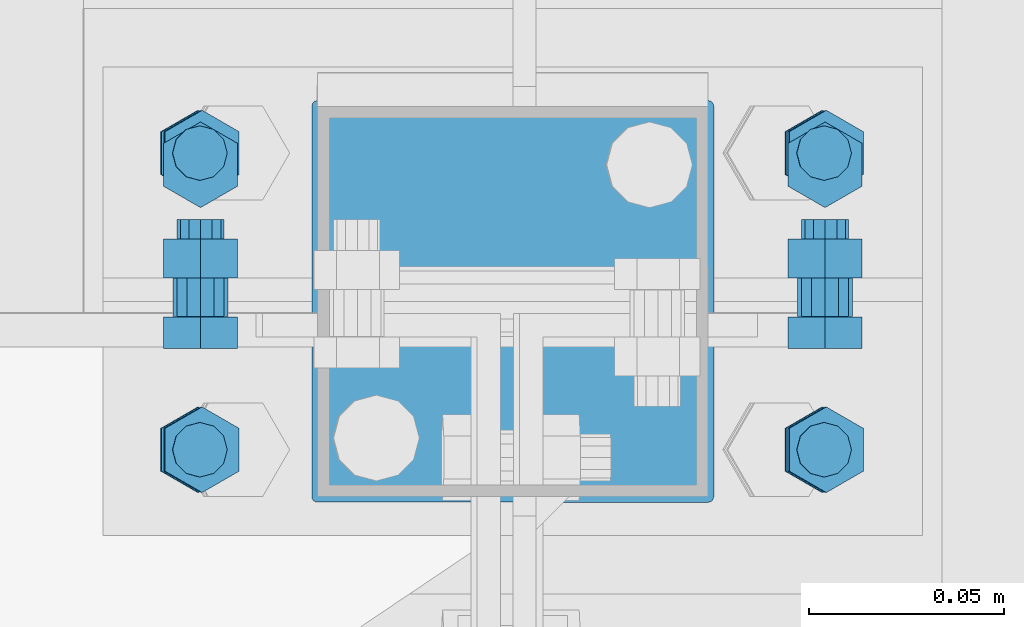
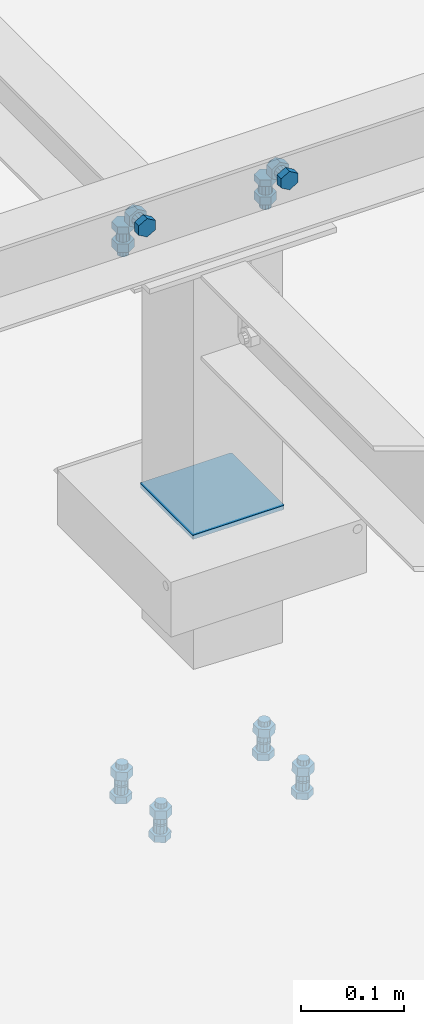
# One storey, part 317 of 3134: 5 mechanical fasteners, 4 elements without a shape of their own.
"""IFC2X3 building model written with IfcOpenShell, lengths in millimetres."""

from ifc_helpers import new_model, si_unit, frame, origin_with_axes, place, context, subcontext, project, spatial, faceted_brep, source, transform, mapped, material, type_object, element, aggregate, save


model = new_model("IFC2X3")

# Units and contexts
model_context = context("Model", 3, precision=1e-05, world=origin_with_axes())
body_context = subcontext(model_context, "Body", "Model", "MODEL_VIEW")
ifc_project = project(units=[si_unit("LENGTHUNIT", "METRE", prefix="MILLI"), si_unit("AREAUNIT", "SQUARE_METRE"), si_unit("VOLUMEUNIT", "CUBIC_METRE"), si_unit("MASSUNIT", "GRAM", prefix="KILO"), si_unit("TIMEUNIT", "SECOND"), si_unit("PLANEANGLEUNIT", "RADIAN"), si_unit("SOLIDANGLEUNIT", "STERADIAN"), si_unit("THERMODYNAMICTEMPERATUREUNIT", "DEGREE_CELSIUS"), si_unit("LUMINOUSINTENSITYUNIT", "LUMEN")], contexts=[model_context])

# Site, building, storey
site_placement = place(None, origin_with_axes())
site = spatial("IfcSite", under=ifc_project, at=site_placement, CompositionType="ELEMENT")
building_placement = place(site_placement, origin_with_axes())
building = spatial("IfcBuilding", under=site, at=building_placement, Name="Undefined", CompositionType="ELEMENT")
storey_placement = place(building_placement, origin_with_axes())
storey = spatial("IfcBuildingStorey", under=building, at=storey_placement, Name="Undefined", CompositionType="ELEMENT", Elevation=0.0)

# Assembly, mechanical fastener
assembly_1_placement = place(storey_placement, origin_with_axes())
assembly_1 = element("IfcElementAssembly", 1, at=assembly_1_placement, inside=storey, AssemblyPlace="NOTDEFINED", PredefinedType="RIGID_FRAME")
ifc_material_1 = material(Name="8.8")
mechanical_fastener_type = type_object("IfcMechanicalFastenerType", Name="Bolt assembly")
shared_shape_1 = source(origin_with_axes(), body_context, "Body", "Brep", [
    faceted_brep([(10.9696551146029, -14.0, 0.0), (5.48482755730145, -14.0, 9.5), (-5.48482755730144, -14.0, 9.5), (-10.9696551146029, -14.0, 1.34339530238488e-15), (-5.48482755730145, -14.0, -9.5), (5.48482755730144, -14.0, -9.50000000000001), (5.48482755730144, -6.0, -9.50000000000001), (-5.48482755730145, -6.0, -9.5), (-10.9696551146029, -6.0, 1.34339530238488e-15), (-5.48482755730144, -6.0, 9.5), (5.48482755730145, -6.0, 9.5), (10.9696551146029, -6.0, 0.0), (6.0, -6.0, 0.0), (5.19615242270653, -6.0, 3.00000000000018), (2.99999999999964, -6.0, 5.19615242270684), (-6.21801588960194e-13, -6.0, 6.0), (-3.00000000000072, -6.0, 5.19615242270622), (-5.19615242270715, -6.0, 2.9999999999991), (-6.0, -6.0, -1.24360317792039e-12), (-5.19615242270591, -6.0, -3.00000000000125), (-2.99999999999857, -6.0, -5.19615242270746), (1.85874342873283e-12, -6.0, -6.0), (3.00000000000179, -6.0, -5.1961524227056), (5.19615242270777, -6.0, -2.99999999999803), (5.19615242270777, 24.0, -2.99999999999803), (3.00000000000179, 24.0, -5.1961524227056), (1.85874342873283e-12, 24.0, -6.0), (-2.99999999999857, 24.0, -5.19615242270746), (-5.19615242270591, 24.0, -3.00000000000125), (-6.0, 24.0, -1.24360317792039e-12), (-5.19615242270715, 24.0, 2.9999999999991), (-3.00000000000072, 24.0, 5.19615242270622), (-6.21801588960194e-13, 24.0, 6.0), (2.99999999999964, 24.0, 5.19615242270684), (5.19615242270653, 24.0, 3.00000000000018), (6.0, 24.0, 0.0), (10.9696551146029, 6.00000000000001, 0.0), (5.48482755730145, 6.00000000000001, 9.5), (-5.48482755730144, 6.00000000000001, 9.5), (-10.9696551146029, 6.00000000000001, 1.34339530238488e-15), (-5.48482755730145, 6.00000000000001, -9.5), (5.48482755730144, 6.00000000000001, -9.50000000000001), (5.48482755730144, 16.0, -9.50000000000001), (-5.48482755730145, 16.0, -9.5), (-10.9696551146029, 16.0, 1.34339530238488e-15), (-5.48482755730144, 16.0, 9.5), (5.48482755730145, 16.0, 9.5), (10.9696551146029, 16.0, 0.0)], [[[0, 1, 2, 3, 4, 5]], [[6, 7, 8, 9, 10, 11]], [[0, 11, 10, 1]], [[1, 10, 9, 2]], [[2, 9, 8, 3]], [[3, 8, 7, 4]], [[4, 7, 6, 5]], [[5, 6, 11, 0]], [[12, 13, 14, 15, 16, 17, 18, 19, 20, 21, 22, 23]], [[24, 25, 26, 27, 28, 29, 30, 31, 32, 33, 34, 35]], [[12, 35, 34, 13]], [[13, 34, 33, 14]], [[14, 33, 32, 15]], [[15, 32, 31, 16]], [[16, 31, 30, 17]], [[17, 30, 29, 18]], [[18, 29, 28, 19]], [[19, 28, 27, 20]], [[20, 27, 26, 21]], [[21, 26, 25, 22]], [[22, 25, 24, 23]], [[23, 24, 35, 12]], [[36, 37, 38, 39, 40, 41]], [[42, 43, 44, 45, 46, 47]], [[36, 47, 46, 37]], [[37, 46, 45, 38]], [[38, 45, 44, 39]], [[39, 44, 43, 40]], [[40, 43, 42, 41]], [[41, 42, 47, 36]]]),
    faceted_brep([(7.0, -0.1, 0.0), (6.06217782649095, -0.1, 3.50000000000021), (3.49999999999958, -0.1, 6.06217782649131), (-7.25435187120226e-13, -0.1, 7.0), (-3.50000000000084, -0.1, 6.06217782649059), (-6.06217782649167, -0.1, 3.49999999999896), (-7.0, -0.1, -1.45087037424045e-12), (-6.06217782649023, -0.1, -3.50000000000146), (-3.49999999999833, -0.1, -6.06217782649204), (2.1685340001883e-12, -0.1, -7.0), (3.50000000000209, -0.1, -6.06217782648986), (6.0621778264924, -0.1, -3.4999999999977), (6.0621778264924, 6.00000000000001, -3.4999999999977), (3.50000000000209, 6.00000000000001, -6.06217782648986), (2.1685340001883e-12, 6.00000000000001, -7.0), (-3.49999999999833, 6.00000000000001, -6.06217782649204), (-6.06217782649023, 6.00000000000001, -3.50000000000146), (-7.0, 6.00000000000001, -1.45087037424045e-12), (-6.06217782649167, 6.00000000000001, 3.49999999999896), (-3.50000000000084, 6.00000000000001, 6.06217782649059), (-7.25435187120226e-13, 6.00000000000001, 7.0), (3.49999999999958, 6.00000000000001, 6.06217782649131), (6.06217782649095, 6.00000000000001, 3.50000000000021), (7.0, 6.00000000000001, 0.0), (7.0, -5.9, 0.0), (6.06217782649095, -5.9, 3.50000000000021), (3.49999999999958, -5.9, 6.06217782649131), (-7.25435187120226e-13, -5.9, 7.0), (-3.50000000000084, -5.9, 6.06217782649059), (-6.06217782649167, -5.9, 3.49999999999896), (-7.0, -5.9, -1.45087037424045e-12), (-6.06217782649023, -5.9, -3.50000000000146), (-3.49999999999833, -5.9, -6.06217782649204), (2.1685340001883e-12, -5.9, -7.0), (3.50000000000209, -5.9, -6.06217782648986), (6.0621778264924, -5.9, -3.4999999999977), (6.0621778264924, 0.0999999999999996, -3.4999999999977), (3.50000000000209, 0.0999999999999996, -6.06217782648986), (2.1685340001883e-12, 0.0999999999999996, -7.0), (-3.49999999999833, 0.0999999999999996, -6.06217782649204), (-6.06217782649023, 0.0999999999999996, -3.50000000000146), (-7.0, 0.0999999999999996, -1.45087037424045e-12), (-6.06217782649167, 0.0999999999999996, 3.49999999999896), (-3.50000000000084, 0.0999999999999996, 6.06217782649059), (-7.25435187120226e-13, 0.0999999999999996, 7.0), (3.49999999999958, 0.0999999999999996, 6.06217782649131), (6.06217782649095, 0.0999999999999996, 3.50000000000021), (7.0, 0.0999999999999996, 0.0)], [[[0, 1, 2, 3, 4, 5, 6, 7, 8, 9, 10, 11]], [[12, 13, 14, 15, 16, 17, 18, 19, 20, 21, 22, 23]], [[0, 23, 22, 1]], [[1, 22, 21, 2]], [[2, 21, 20, 3]], [[3, 20, 19, 4]], [[4, 19, 18, 5]], [[5, 18, 17, 6]], [[6, 17, 16, 7]], [[7, 16, 15, 8]], [[8, 15, 14, 9]], [[9, 14, 13, 10]], [[10, 13, 12, 11]], [[11, 12, 23, 0]], [[24, 25, 26, 27, 28, 29, 30, 31, 32, 33, 34, 35]], [[36, 37, 38, 39, 40, 41, 42, 43, 44, 45, 46, 47]], [[24, 47, 46, 25]], [[25, 46, 45, 26]], [[26, 45, 44, 27]], [[27, 44, 43, 28]], [[28, 43, 42, 29]], [[29, 42, 41, 30]], [[30, 41, 40, 31]], [[31, 40, 39, 32]], [[32, 39, 38, 33]], [[33, 38, 37, 34]], [[34, 37, 36, 35]], [[35, 36, 47, 24]]]),
])
mechanical_fastener_1_placement = place(assembly_1_placement, frame((75550.0, 2585.0, 5850.0), z_axis=(1.0, 0.0, 0.0), x_axis=(0.0, -1.0, 0.0)))
mechanical_fastener_1 = element("IfcMechanicalFastener", 2, at=mechanical_fastener_1_placement, type_object=mechanical_fastener_type, material=ifc_material_1, Name="Bolt assembly", NominalDiameter=12.0, NominalLength=30.0, context=body_context, shape_type="MappedRepresentation", body=[
    mapped(shared_shape_1, transform((0.0, -5.32963895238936e-10, -79.9999999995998))),
    mapped(shared_shape_1, transform((0.0, 5.3114490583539e-10, 79.9999999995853))),
])

assembly_2_placement = place(storey_placement, origin_with_axes())
assembly_2 = element("IfcElementAssembly", 3, at=assembly_2_placement, inside=storey, AssemblyPlace="NOTDEFINED", PredefinedType="RIGID_FRAME")
shared_shape_2 = source(origin_with_axes(), body_context, "Body", "Brep", [
    faceted_brep([(7.0, 13.0000253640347, 0.0), (6.06217782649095, 13.0000253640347, 3.50000000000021), (3.49999999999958, 13.0000253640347, 6.06217782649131), (-7.25435187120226e-13, 13.0000253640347, 7.0), (-3.50000000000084, 13.0000253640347, 6.06217782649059), (-6.06217782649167, 13.0000253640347, 3.49999999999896), (-7.0, 13.0000253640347, -1.45087037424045e-12), (-6.06217782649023, 13.0000253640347, -3.50000000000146), (-3.49999999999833, 13.0000253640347, -6.06217782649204), (2.1685340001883e-12, 13.0000253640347, -7.0), (3.50000000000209, 13.0000253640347, -6.06217782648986), (6.0621778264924, 13.0000253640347, -3.4999999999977), (6.0621778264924, 15.0999999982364, -3.4999999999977), (3.50000000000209, 15.0999999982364, -6.06217782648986), (2.1685340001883e-12, 15.0999999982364, -7.0), (-3.49999999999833, 15.0999999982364, -6.06217782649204), (-6.06217782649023, 15.0999999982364, -3.50000000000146), (-7.0, 15.0999999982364, -1.45087037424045e-12), (-6.06217782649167, 15.0999999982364, 3.49999999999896), (-3.50000000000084, 15.0999999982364, 6.06217782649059), (-7.25435187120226e-13, 15.0999999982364, 7.0), (3.49999999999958, 15.0999999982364, 6.06217782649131), (6.06217782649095, 15.0999999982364, 3.50000000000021), (7.0, 15.0999999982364, 0.0)], [[[0, 1, 2, 3, 4, 5, 6, 7, 8, 9, 10, 11]], [[12, 13, 14, 15, 16, 17, 18, 19, 20, 21, 22, 23]], [[0, 23, 22, 1]], [[1, 22, 21, 2]], [[2, 21, 20, 3]], [[3, 20, 19, 4]], [[4, 19, 18, 5]], [[5, 18, 17, 6]], [[6, 17, 16, 7]], [[7, 16, 15, 8]], [[8, 15, 14, 9]], [[9, 14, 13, 10]], [[10, 13, 12, 11]], [[11, 12, 23, 0]]]),
])
mechanical_fastener_2_placement = place(assembly_2_placement, frame((75549.3451187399, 2588.0, 5179.0072055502), z_axis=(-0.99951962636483, 0.0, 0.0309922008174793), x_axis=(0.0, -1.0, 0.0)))
mechanical_fastener_2 = element("IfcMechanicalFastener", 4, at=mechanical_fastener_2_placement, type_object=mechanical_fastener_type, material=ifc_material_1, Name="Bolt assembly", NominalDiameter=12.0, NominalLength=2.0, context=body_context, shape_type="MappedRepresentation", body=[
    mapped(shared_shape_2, transform((0.0, -5.32963895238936e-10, -79.9999999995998))),
    mapped(shared_shape_2, transform((76.0, -5.32963895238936e-10, -79.9999999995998))),
    mapped(shared_shape_2, transform((0.0, 5.3114490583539e-10, 79.9999999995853))),
    mapped(shared_shape_2, transform((76.0, 5.3114490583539e-10, 79.9999999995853))),
])
aggregate(assembly_2, [mechanical_fastener_2])

assembly_3_placement = place(storey_placement, origin_with_axes())
assembly_3 = element("IfcElementAssembly", 5, at=assembly_3_placement, inside=storey, AssemblyPlace="NOTDEFINED", PredefinedType="RIGID_FRAME")
ifc_material_2 = material(Name="6.8")
shared_shape_3 = source(origin_with_axes(), body_context, "Body", "Brep", [
    faceted_brep([(51.5, 1.36424205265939e-12, 50.0), (51.3858192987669, 1.36424205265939e-12, 50.5740251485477), (51.0606601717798, 1.36424205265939e-12, 51.0606601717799), (50.5740251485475, 1.36424205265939e-12, 51.385819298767), (-50.0000000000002, 1.36424205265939e-12, 51.5), (-50.7500000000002, 1.36424205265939e-12, 51.2990381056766), (-51.2990381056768, 1.36424205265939e-12, 50.7499999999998), (-51.5, 1.36424205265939e-12, 49.9999999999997), (-51.5, 1.36424205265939e-12, -50.0000000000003), (-51.2990381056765, 1.36424205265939e-12, -50.7500000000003), (-50.7499999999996, 1.36424205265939e-12, -51.2990381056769), (-49.9999999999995, 1.36424205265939e-12, -51.5), (50.0000000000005, 1.36424205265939e-12, -51.5), (50.7500000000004, 1.36424205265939e-12, -51.2990381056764), (51.2990381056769, 1.36424205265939e-12, -50.7499999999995), (51.5, 1.36424205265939e-12, -49.9999999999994), (51.5, 5.10000000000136, -49.9999999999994), (51.2990381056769, 5.10000000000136, -50.7499999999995), (50.7500000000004, 5.10000000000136, -51.2990381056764), (50.0000000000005, 5.10000000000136, -51.5), (-49.9999999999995, 5.10000000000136, -51.5), (-50.7499999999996, 5.10000000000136, -51.2990381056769), (-51.2990381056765, 5.10000000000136, -50.7500000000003), (-51.5, 5.10000000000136, -50.0000000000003), (-51.5, 5.10000000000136, 49.9999999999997), (-51.2990381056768, 5.10000000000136, 50.7499999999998), (-50.7500000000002, 5.10000000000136, 51.2990381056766), (-50.0000000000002, 5.10000000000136, 51.5), (50.5740251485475, 5.10000000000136, 51.385819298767), (51.0606601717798, 5.10000000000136, 51.0606601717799), (51.3858192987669, 5.10000000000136, 50.5740251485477), (51.5, 5.10000000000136, 50.0)], [[[0, 1, 2, 3, 4, 5, 6, 7, 8, 9, 10, 11, 12, 13, 14, 15]], [[16, 17, 18, 19, 20, 21, 22, 23, 24, 25, 26, 27, 28, 29, 30, 31]], [[0, 31, 30, 1]], [[1, 30, 29, 2]], [[2, 29, 28, 3]], [[3, 28, 27, 4]], [[4, 27, 26, 5]], [[5, 26, 25, 6]], [[6, 25, 24, 7]], [[7, 24, 23, 8]], [[8, 23, 22, 9]], [[9, 22, 21, 10]], [[10, 21, 20, 11]], [[11, 20, 19, 12]], [[12, 19, 18, 13]], [[13, 18, 17, 14]], [[14, 17, 16, 15]], [[15, 16, 31, 0]]]),
])
mechanical_fastener_3_placement = place(assembly_3_placement, frame((75550.0, 2550.0, 5533.71), z_axis=(0.0, -1.0, 0.0), x_axis=(-1.0, 0.0, 0.0)))
mechanical_fastener_3 = element("IfcMechanicalFastener", 6, at=mechanical_fastener_3_placement, type_object=mechanical_fastener_type, material=ifc_material_2, Name="Bolt assembly", NominalDiameter=10.0, NominalLength=5.0, context=body_context, shape_type="MappedRepresentation", body=[
    mapped(shared_shape_3, transform((0.0, 0.0, 0.0))),
])
aggregate(assembly_3, [mechanical_fastener_3])

# Mechanical fastener
shared_shape_4 = source(origin_with_axes(), body_context, "Body", "Brep", [
    faceted_brep([(10.9696551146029, -12.0, 0.0), (5.48482755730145, -12.0, 9.5), (-5.48482755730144, -12.0, 9.5), (-10.9696551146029, -12.0, 1.34339530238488e-15), (-5.48482755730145, -12.0, -9.5), (5.48482755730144, -12.0, -9.50000000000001), (5.48482755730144, -4.0, -9.50000000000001), (-5.48482755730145, -4.0, -9.5), (-10.9696551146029, -4.0, 1.34339530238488e-15), (-5.48482755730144, -4.0, 9.5), (5.48482755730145, -4.0, 9.5), (10.9696551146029, -4.0, 0.0), (6.0, -4.0, 0.0), (5.19615242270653, -4.0, 3.00000000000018), (2.99999999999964, -4.0, 5.19615242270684), (-6.21801588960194e-13, -4.0, 6.0), (-3.00000000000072, -4.0, 5.19615242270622), (-5.19615242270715, -4.0, 2.9999999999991), (-6.0, -4.0, -1.24360317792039e-12), (-5.19615242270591, -4.0, -3.00000000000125), (-2.99999999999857, -4.0, -5.19615242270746), (1.85874342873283e-12, -4.0, -6.0), (3.00000000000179, -4.0, -5.1961524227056), (5.19615242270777, -4.0, -2.99999999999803), (5.19615242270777, 21.0, -2.99999999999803), (3.00000000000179, 21.0, -5.1961524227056), (1.85874342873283e-12, 21.0, -6.0), (-2.99999999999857, 21.0, -5.19615242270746), (-5.19615242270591, 21.0, -3.00000000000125), (-6.0, 21.0, -1.24360317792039e-12), (-5.19615242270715, 21.0, 2.9999999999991), (-3.00000000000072, 21.0, 5.19615242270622), (-6.21801588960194e-13, 21.0, 6.0), (2.99999999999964, 21.0, 5.19615242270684), (5.19615242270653, 21.0, 3.00000000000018), (6.0, 21.0, 0.0), (10.9696551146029, 6.00000000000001, 0.0), (5.48482755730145, 6.00000000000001, 9.5), (-5.48482755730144, 6.00000000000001, 9.5), (-10.9696551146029, 6.00000000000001, 1.34339530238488e-15), (-5.48482755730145, 6.00000000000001, -9.5), (5.48482755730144, 6.00000000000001, -9.50000000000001), (5.48482755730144, 16.0, -9.50000000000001), (-5.48482755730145, 16.0, -9.5), (-10.9696551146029, 16.0, 1.34339530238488e-15), (-5.48482755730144, 16.0, 9.5), (5.48482755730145, 16.0, 9.5), (10.9696551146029, 16.0, 0.0)], [[[0, 1, 2, 3, 4, 5]], [[6, 7, 8, 9, 10, 11]], [[0, 11, 10, 1]], [[1, 10, 9, 2]], [[2, 9, 8, 3]], [[3, 8, 7, 4]], [[4, 7, 6, 5]], [[5, 6, 11, 0]], [[12, 13, 14, 15, 16, 17, 18, 19, 20, 21, 22, 23]], [[24, 25, 26, 27, 28, 29, 30, 31, 32, 33, 34, 35]], [[12, 35, 34, 13]], [[13, 34, 33, 14]], [[14, 33, 32, 15]], [[15, 32, 31, 16]], [[16, 31, 30, 17]], [[17, 30, 29, 18]], [[18, 29, 28, 19]], [[19, 28, 27, 20]], [[20, 27, 26, 21]], [[21, 26, 25, 22]], [[22, 25, 24, 23]], [[23, 24, 35, 12]], [[36, 37, 38, 39, 40, 41]], [[42, 43, 44, 45, 46, 47]], [[36, 47, 46, 37]], [[37, 46, 45, 38]], [[38, 45, 44, 39]], [[39, 44, 43, 40]], [[40, 43, 42, 41]], [[41, 42, 47, 36]]]),
    faceted_brep([(7.0, -3.9, 0.0), (6.06217782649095, -3.9, 3.50000000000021), (3.49999999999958, -3.9, 6.06217782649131), (-7.25435187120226e-13, -3.9, 7.0), (-3.50000000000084, -3.9, 6.06217782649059), (-6.06217782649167, -3.9, 3.49999999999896), (-7.0, -3.9, -1.45087037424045e-12), (-6.06217782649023, -3.9, -3.50000000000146), (-3.49999999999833, -3.9, -6.06217782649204), (2.1685340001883e-12, -3.9, -7.0), (3.50000000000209, -3.9, -6.06217782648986), (6.0621778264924, -3.9, -3.4999999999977), (6.0621778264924, 0.0999999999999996, -3.4999999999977), (3.50000000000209, 0.0999999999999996, -6.06217782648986), (2.1685340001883e-12, 0.0999999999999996, -7.0), (-3.49999999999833, 0.0999999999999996, -6.06217782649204), (-6.06217782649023, 0.0999999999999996, -3.50000000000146), (-7.0, 0.0999999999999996, -1.45087037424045e-12), (-6.06217782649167, 0.0999999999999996, 3.49999999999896), (-3.50000000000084, 0.0999999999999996, 6.06217782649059), (-7.25435187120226e-13, 0.0999999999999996, 7.0), (3.49999999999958, 0.0999999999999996, 6.06217782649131), (6.06217782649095, 0.0999999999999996, 3.50000000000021), (7.0, 0.0999999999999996, 0.0), (7.0, -0.1, 0.0), (6.06217782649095, -0.1, 3.50000000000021), (3.49999999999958, -0.1, 6.06217782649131), (-7.25435187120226e-13, -0.1, 7.0), (-3.50000000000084, -0.1, 6.06217782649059), (-6.06217782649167, -0.1, 3.49999999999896), (-7.0, -0.1, -1.45087037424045e-12), (-6.06217782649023, -0.1, -3.50000000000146), (-3.49999999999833, -0.1, -6.06217782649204), (2.1685340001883e-12, -0.1, -7.0), (3.50000000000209, -0.1, -6.06217782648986), (6.0621778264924, -0.1, -3.4999999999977), (6.0621778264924, 6.00000000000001, -3.4999999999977), (3.50000000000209, 6.00000000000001, -6.06217782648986), (2.1685340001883e-12, 6.00000000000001, -7.0), (-3.49999999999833, 6.00000000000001, -6.06217782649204), (-6.06217782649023, 6.00000000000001, -3.50000000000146), (-7.0, 6.00000000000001, -1.45087037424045e-12), (-6.06217782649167, 6.00000000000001, 3.49999999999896), (-3.50000000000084, 6.00000000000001, 6.06217782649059), (-7.25435187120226e-13, 6.00000000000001, 7.0), (3.49999999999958, 6.00000000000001, 6.06217782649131), (6.06217782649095, 6.00000000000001, 3.50000000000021), (7.0, 6.00000000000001, 0.0)], [[[0, 1, 2, 3, 4, 5, 6, 7, 8, 9, 10, 11]], [[12, 13, 14, 15, 16, 17, 18, 19, 20, 21, 22, 23]], [[0, 23, 22, 1]], [[1, 22, 21, 2]], [[2, 21, 20, 3]], [[3, 20, 19, 4]], [[4, 19, 18, 5]], [[5, 18, 17, 6]], [[6, 17, 16, 7]], [[7, 16, 15, 8]], [[8, 15, 14, 9]], [[9, 14, 13, 10]], [[10, 13, 12, 11]], [[11, 12, 23, 0]], [[24, 25, 26, 27, 28, 29, 30, 31, 32, 33, 34, 35]], [[36, 37, 38, 39, 40, 41, 42, 43, 44, 45, 46, 47]], [[24, 47, 46, 25]], [[25, 46, 45, 26]], [[26, 45, 44, 27]], [[27, 44, 43, 28]], [[28, 43, 42, 29]], [[29, 42, 41, 30]], [[30, 41, 40, 31]], [[31, 40, 39, 32]], [[32, 39, 38, 33]], [[33, 38, 37, 34]], [[34, 37, 36, 35]], [[35, 36, 47, 24]]]),
])
mechanical_fastener_4_placement = place(assembly_1_placement, frame((75550.0, 2550.0, 5885.0), z_axis=(1.0, 0.0, 0.0), x_axis=(0.0, 0.0, -1.0)))
mechanical_fastener_4 = element("IfcMechanicalFastener", 7, at=mechanical_fastener_4_placement, type_object=mechanical_fastener_type, material=ifc_material_1, Name="Bolt assembly", NominalDiameter=12.0, NominalLength=25.0, context=body_context, shape_type="MappedRepresentation", body=[
    mapped(shared_shape_4, transform((0.0, -5.32963895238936e-10, -79.9999999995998))),
    mapped(shared_shape_4, transform((0.0, 5.3114490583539e-10, 79.9999999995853))),
])

aggregate(assembly_1, [mechanical_fastener_4, mechanical_fastener_1])

# Assembly, mechanical fastener
assembly_4_placement = place(storey_placement, origin_with_axes())
assembly_4 = element("IfcElementAssembly", 8, at=assembly_4_placement, inside=storey, Name="300", AssemblyPlace="NOTDEFINED", PredefinedType="RIGID_FRAME")
shared_shape_5 = source(origin_with_axes(), body_context, "Body", "Brep", [
    faceted_brep([(10.9696551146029, -10.1954959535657, 0.0), (5.48482755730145, -10.1954959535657, 9.5), (-5.48482755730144, -10.1954959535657, 9.5), (-10.9696551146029, -10.1954959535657, 1.34339530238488e-15), (-5.48482755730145, -10.1954959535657, -9.5), (5.48482755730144, -10.1954959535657, -9.50000000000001), (5.48482755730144, -2.19549595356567, -9.50000000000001), (-5.48482755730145, -2.19549595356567, -9.5), (-10.9696551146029, -2.19549595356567, 1.34339530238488e-15), (-5.48482755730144, -2.19549595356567, 9.5), (5.48482755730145, -2.19549595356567, 9.5), (10.9696551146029, -2.19549595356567, 0.0), (6.0, -2.19549595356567, 0.0), (5.19615242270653, -2.19549595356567, 3.00000000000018), (2.99999999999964, -2.19549595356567, 5.19615242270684), (-6.21801588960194e-13, -2.19549595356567, 6.0), (-3.00000000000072, -2.19549595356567, 5.19615242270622), (-5.19615242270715, -2.19549595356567, 2.9999999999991), (-6.0, -2.19549595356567, -1.24360317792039e-12), (-5.19615242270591, -2.19549595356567, -3.00000000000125), (-2.99999999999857, -2.19549595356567, -5.19615242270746), (1.85874342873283e-12, -2.19549595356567, -6.0), (3.00000000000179, -2.19549595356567, -5.1961524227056), (5.19615242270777, -2.19549595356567, -2.99999999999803), (5.19615242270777, 32.8045040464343, -2.99999999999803), (3.00000000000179, 32.8045040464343, -5.1961524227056), (1.85874342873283e-12, 32.8045040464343, -6.0), (-2.99999999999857, 32.8045040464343, -5.19615242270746), (-5.19615242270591, 32.8045040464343, -3.00000000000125), (-6.0, 32.8045040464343, -1.24360317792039e-12), (-5.19615242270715, 32.8045040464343, 2.9999999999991), (-3.00000000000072, 32.8045040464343, 5.19615242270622), (-6.21801588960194e-13, 32.8045040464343, 6.0), (2.99999999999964, 32.8045040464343, 5.19615242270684), (5.19615242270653, 32.8045040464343, 3.00000000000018), (6.0, 32.8045040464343, 0.0), (10.9696551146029, 17.0008987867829, 0.0), (5.48482755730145, 17.0008987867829, 9.5), (-5.48482755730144, 17.0008987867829, 9.5), (-10.9696551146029, 17.0008987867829, 1.34339530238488e-15), (-5.48482755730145, 17.0008987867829, -9.5), (5.48482755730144, 17.0008987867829, -9.50000000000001), (5.48482755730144, 27.0008987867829, -9.50000000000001), (-5.48482755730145, 27.0008987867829, -9.5), (-10.9696551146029, 27.0008987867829, 1.34339530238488e-15), (-5.48482755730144, 27.0008987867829, 9.5), (5.48482755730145, 27.0008987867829, 9.5), (10.9696551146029, 27.0008987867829, 0.0)], [[[0, 1, 2, 3, 4, 5]], [[6, 7, 8, 9, 10, 11]], [[0, 11, 10, 1]], [[1, 10, 9, 2]], [[2, 9, 8, 3]], [[3, 8, 7, 4]], [[4, 7, 6, 5]], [[5, 6, 11, 0]], [[12, 13, 14, 15, 16, 17, 18, 19, 20, 21, 22, 23]], [[24, 25, 26, 27, 28, 29, 30, 31, 32, 33, 34, 35]], [[12, 35, 34, 13]], [[13, 34, 33, 14]], [[14, 33, 32, 15]], [[15, 32, 31, 16]], [[16, 31, 30, 17]], [[17, 30, 29, 18]], [[18, 29, 28, 19]], [[19, 28, 27, 20]], [[20, 27, 26, 21]], [[21, 26, 25, 22]], [[22, 25, 24, 23]], [[23, 24, 35, 12]], [[36, 37, 38, 39, 40, 41]], [[42, 43, 44, 45, 46, 47]], [[36, 47, 46, 37]], [[37, 46, 45, 38]], [[38, 45, 44, 39]], [[39, 44, 43, 40]], [[40, 43, 42, 41]], [[41, 42, 47, 36]]]),
    faceted_brep([(7.0, 8.90089878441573, 0.0), (6.06217782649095, 8.90089878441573, 3.50000000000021), (3.49999999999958, 8.90089878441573, 6.06217782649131), (-7.25435187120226e-13, 8.90089878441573, 7.0), (-3.50000000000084, 8.90089878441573, 6.06217782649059), (-6.06217782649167, 8.90089878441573, 3.49999999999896), (-7.0, 8.90089878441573, -1.45087037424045e-12), (-6.06217782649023, 8.90089878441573, -3.50000000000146), (-3.49999999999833, 8.90089878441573, -6.06217782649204), (2.1685340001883e-12, 8.90089878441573, -7.0), (3.50000000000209, 8.90089878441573, -6.06217782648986), (6.0621778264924, 8.90089878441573, -3.4999999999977), (6.0621778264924, 17.0008987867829, -3.4999999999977), (3.50000000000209, 17.0008987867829, -6.06217782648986), (2.1685340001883e-12, 17.0008987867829, -7.0), (-3.49999999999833, 17.0008987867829, -6.06217782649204), (-6.06217782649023, 17.0008987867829, -3.50000000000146), (-7.0, 17.0008987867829, -1.45087037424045e-12), (-6.06217782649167, 17.0008987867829, 3.49999999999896), (-3.50000000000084, 17.0008987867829, 6.06217782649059), (-7.25435187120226e-13, 17.0008987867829, 7.0), (3.49999999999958, 17.0008987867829, 6.06217782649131), (6.06217782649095, 17.0008987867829, 3.50000000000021), (7.0, 17.0008987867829, 0.0), (7.0, -2.09549595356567, 0.0), (6.06217782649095, -2.09549595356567, 3.50000000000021), (3.49999999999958, -2.09549595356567, 6.06217782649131), (-7.25435187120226e-13, -2.09549595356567, 7.0), (-3.50000000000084, -2.09549595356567, 6.06217782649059), (-6.06217782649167, -2.09549595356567, 3.49999999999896), (-7.0, -2.09549595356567, -1.45087037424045e-12), (-6.06217782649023, -2.09549595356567, -3.50000000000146), (-3.49999999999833, -2.09549595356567, -6.06217782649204), (2.1685340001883e-12, -2.09549595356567, -7.0), (3.50000000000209, -2.09549595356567, -6.06217782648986), (6.0621778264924, -2.09549595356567, -3.4999999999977), (6.0621778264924, 7.10450385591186, -3.4999999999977), (3.50000000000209, 7.10450385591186, -6.06217782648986), (2.1685340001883e-12, 7.10450385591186, -7.0), (-3.49999999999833, 7.10450385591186, -6.06217782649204), (-6.06217782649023, 7.10450385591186, -3.50000000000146), (-7.0, 7.10450385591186, -1.45087037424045e-12), (-6.06217782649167, 7.10450385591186, 3.49999999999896), (-3.50000000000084, 7.10450385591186, 6.06217782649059), (-7.25435187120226e-13, 7.10450385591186, 7.0), (3.49999999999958, 7.10450385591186, 6.06217782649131), (6.06217782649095, 7.10450385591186, 3.50000000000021), (7.0, 7.10450385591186, 0.0)], [[[0, 1, 2, 3, 4, 5, 6, 7, 8, 9, 10, 11]], [[12, 13, 14, 15, 16, 17, 18, 19, 20, 21, 22, 23]], [[0, 23, 22, 1]], [[1, 22, 21, 2]], [[2, 21, 20, 3]], [[3, 20, 19, 4]], [[4, 19, 18, 5]], [[5, 18, 17, 6]], [[6, 17, 16, 7]], [[7, 16, 15, 8]], [[8, 15, 14, 9]], [[9, 14, 13, 10]], [[10, 13, 12, 11]], [[11, 12, 23, 0]], [[24, 25, 26, 27, 28, 29, 30, 31, 32, 33, 34, 35]], [[36, 37, 38, 39, 40, 41, 42, 43, 44, 45, 46, 47]], [[24, 47, 46, 25]], [[25, 46, 45, 26]], [[26, 45, 44, 27]], [[27, 44, 43, 28]], [[28, 43, 42, 29]], [[29, 42, 41, 30]], [[30, 41, 40, 31]], [[31, 40, 39, 32]], [[32, 39, 38, 33]], [[33, 38, 37, 34]], [[34, 37, 36, 35]], [[35, 36, 47, 24]]]),
])
mechanical_fastener_5_placement = place(assembly_4_placement, frame((75549.5351187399, 2588.0, 5185.0072055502), z_axis=(-0.99951962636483, 0.0, 0.0309922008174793), x_axis=(0.0, -1.0, 0.0)))
mechanical_fastener_5 = element("IfcMechanicalFastener", 9, at=mechanical_fastener_5_placement, type_object=mechanical_fastener_type, material=ifc_material_1, Name="Bolt assembly", NominalDiameter=12.0, NominalLength=35.0, context=body_context, shape_type="MappedRepresentation", body=[
    mapped(shared_shape_5, transform((0.0, -5.32963895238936e-10, -79.9999999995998))),
    mapped(shared_shape_5, transform((76.0, -5.32963895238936e-10, -79.9999999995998))),
    mapped(shared_shape_5, transform((0.0, 5.3114490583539e-10, 79.9999999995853))),
    mapped(shared_shape_5, transform((76.0, 5.3114490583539e-10, 79.9999999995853))),
])
aggregate(assembly_4, [mechanical_fastener_5])

save(model, "model.ifc")
